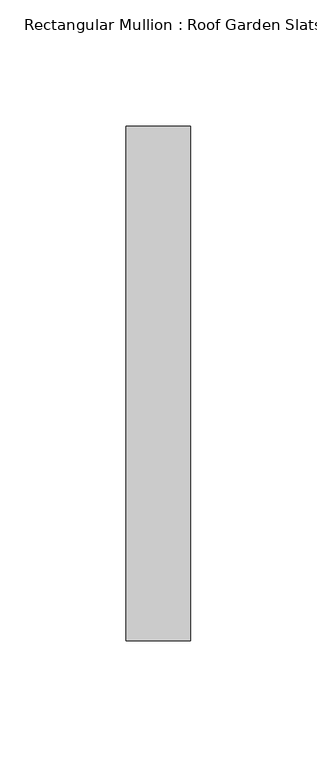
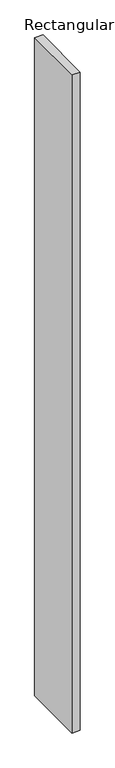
"""IFC4 building model written with IfcOpenShell, lengths in millimetres: member geometry, Rectangular Mullion : Roof Garden Slats."""

import ifcopenshell
import ifcopenshell.guid

model = None  # the IFC model being written
_history = None  # IfcOwnerHistory: only IFC2X3 demands one
_inside = {}  # id of a spatial element -> (the spatial element, [elements in it])
_under = {}  # id of a project, library or spatial element -> (it, [spatial elements below it])
_declared = {}  # id of a project -> (the project, [libraries it declares])
_typed = {}  # id of a type object -> (the type object, [elements of that type])
_made_of = {}  # id of a material, layer set ... -> (it, [elements and type objects made of it])


def new_model(schema):
    """Start an empty IFC model of exactly this schema.

    Asked for "IFC4X3", IfcOpenShell would pick the latest addendum, in which some entities
    have other attributes; the version numbers below select the first issue.
    IFC2X3 requires an IfcOwnerHistory on every rooted entity: one is made here for all.
    """
    global model, _history
    if schema == "IFC4X3":
        model = ifcopenshell.file(schema_version=(4, 3, 0, 0))
    else:
        model = ifcopenshell.file(schema=schema)
    _inside.clear()
    _under.clear()
    _declared.clear()
    _typed.clear()
    _made_of.clear()
    _history = None
    if model.schema == "IFC2X3":
        org = make("IfcOrganization", Name="unknown")
        user = make(
            "IfcPersonAndOrganization",
            ThePerson=make("IfcPerson", FamilyName="unknown"),
            TheOrganization=org,
        )
        app = make(
            "IfcApplication",
            ApplicationDeveloper=org,
            Version="unknown",
            ApplicationFullName="unknown",
            ApplicationIdentifier="unknown",
        )
        _history = make(
            "IfcOwnerHistory",
            OwningUser=user,
            OwningApplication=app,
            ChangeAction="ADDED",
            CreationDate=0,
        )
    return model


def make(cls, **values):
    """One entity of the class cls with the attributes given. An attribute that is None is left unset."""
    return model.create_entity(
        cls, **{name: value for name, value in values.items() if value is not None}
    )


def rooted(cls, **values):
    """An entity with a GlobalId (a new one), such as an element, a storey or a relation."""
    return make(cls, GlobalId=ifcopenshell.guid.new(), OwnerHistory=_history, **values)


def si_unit(unit_type, name, prefix=None):
    """IfcSIUnit, for example si_unit("LENGTHUNIT", "METRE", prefix="MILLI")."""
    return make("IfcSIUnit", UnitType=unit_type, Prefix=prefix, Name=name)


def assignment(units):
    """IfcUnitAssignment: the units of a project."""
    return None if units is None else make("IfcUnitAssignment", Units=units)


def point(xyz):
    """IfcCartesianPoint."""
    return None if xyz is None else make("IfcCartesianPoint", Coordinates=xyz)


def direction(xyz):
    """IfcDirection."""
    return None if xyz is None else make("IfcDirection", DirectionRatios=xyz)


def frame(location, z_axis=None, x_axis=None):
    """IfcAxis2Placement3D, a coordinate frame: its origin and axes. An axis left out is left unset."""
    return make(
        "IfcAxis2Placement3D",
        Location=point(location),
        Axis=direction(z_axis),
        RefDirection=direction(x_axis),
    )


def origin():
    """The frame at (0, 0, 0) with its axes left unset."""
    return frame((0.0, 0.0, 0.0))


def place(relative_to, where):
    """IfcLocalPlacement: puts the frame where relative to a parent placement (None: the world)."""
    return make(
        "IfcLocalPlacement", PlacementRelTo=relative_to, RelativePlacement=where
    )


def context(
    kind, dimensions, precision=None, world=None, true_north=None, identifier=None
):
    """IfcGeometricRepresentationContext, for example the 3D "Model" context."""
    return make(
        "IfcGeometricRepresentationContext",
        ContextIdentifier=identifier,
        ContextType=kind,
        CoordinateSpaceDimension=dimensions,
        Precision=precision,
        WorldCoordinateSystem=world,
        TrueNorth=true_north,
    )


def project(units=None, contexts=None):
    """IfcProject with its units and contexts."""
    return rooted(
        "IfcProject",
        Name="project",
        RepresentationContexts=contexts,
        UnitsInContext=assignment(units),
    )


def spatial(cls, under=None, at=None, **own):
    """A site, building, storey or space (cls), placed at a placement, below another one or the project."""
    s = rooted(cls, ObjectPlacement=at, **own)
    if under is not None:
        _under.setdefault(under.id(), (under, []))[1].append(s)
    return s


def polyline(points):
    """IfcPolyline through the points."""
    return make("IfcPolyline", Points=[point(p) for p in points])


def outline(outer, holes=None, kind="AREA"):
    """IfcArbitraryClosedProfileDef: a profile drawn as a closed curve; with holes, ...WithVoids."""
    if holes is None:
        return make("IfcArbitraryClosedProfileDef", ProfileType=kind, OuterCurve=outer)
    return make(
        "IfcArbitraryProfileDefWithVoids",
        ProfileType=kind,
        OuterCurve=outer,
        InnerCurves=holes,
    )


def extrude(swept, where, along, depth):
    """IfcExtrudedAreaSolid: the profile swept, set in the frame where, extruded along a direction by depth."""
    return make(
        "IfcExtrudedAreaSolid",
        SweptArea=swept,
        Position=where,
        ExtrudedDirection=direction(along),
        Depth=depth,
    )


def shape(context_of_items, identifier, shape_type, items):
    """IfcShapeRepresentation: the items that make up one representation, for example the "Body"."""
    return make(
        "IfcShapeRepresentation",
        ContextOfItems=context_of_items,
        RepresentationIdentifier=identifier,
        RepresentationType=shape_type,
        Items=items,
    )


def source(mapping_origin, context_of_items, identifier, shape_type, items):
    """IfcRepresentationMap: a shape defined once, which mapped items show again and again."""
    return make(
        "IfcRepresentationMap",
        MappingOrigin=mapping_origin,
        MappedRepresentation=shape(context_of_items, identifier, shape_type, items),
    )


def transform(
    local_origin,
    x_axis=None,
    y_axis=None,
    z_axis=None,
    scale=None,
    scale2=None,
    scale3=None,
    uniform=True,
):
    """IfcCartesianTransformationOperator3D, or its non-uniform kind. x_axis, y_axis, z_axis: its Axis1, 2, 3."""
    if uniform:
        return make(
            "IfcCartesianTransformationOperator3D",
            Axis1=direction(x_axis),
            Axis2=direction(y_axis),
            LocalOrigin=point(local_origin),
            Scale=scale,
            Axis3=direction(z_axis),
        )
    return make(
        "IfcCartesianTransformationOperator3DnonUniform",
        Axis1=direction(x_axis),
        Axis2=direction(y_axis),
        LocalOrigin=point(local_origin),
        Scale=scale,
        Axis3=direction(z_axis),
        Scale2=scale2,
        Scale3=scale3,
    )


def mapped(mapping_source, mapping_target):
    """IfcMappedItem: shows the shape of a source again, moved by a transform."""
    return make(
        "IfcMappedItem", MappingSource=mapping_source, MappingTarget=mapping_target
    )


def made_of(thing, what):
    """Note that an element or type object is made of a material, layer set ...; save() writes the relation."""
    if what is not None:
        _made_of.setdefault(what.id(), (what, []))[1].append(thing)
    return thing


def element(
    cls,
    number,
    at=None,
    inside=None,
    cuts=None,
    type_object=None,
    material=None,
    context=None,
    identifier="Body",
    shape_type=None,
    held_by="IfcProductDefinitionShape",
    body=None,
    shapes=None,
    **own,
):
    """One element of the class cls, such as IfcWall. Its Tag is "e" and its number.

    at: its placement. inside: the storey or other place that contains it. cuts: it is an
    opening in that element (IfcRelVoidsElement). A single representation is given by context,
    identifier, shape_type and body (its items); several are given by shapes. held_by: the class
    of the entity that holds the representations. save() writes the other relations.
    """
    e = rooted(cls, Tag="e%d" % number, ObjectPlacement=at, **own)
    if body is not None:
        shapes = [shape(context, identifier, shape_type, body)]
    if shapes is not None:
        e.Representation = make(held_by, Representations=shapes)
    if inside is not None:
        _inside.setdefault(inside.id(), (inside, []))[1].append(e)
    if cuts is not None:
        rooted(
            "IfcRelVoidsElement", RelatingBuildingElement=cuts, RelatedOpeningElement=e
        )
    if type_object is not None:
        _typed.setdefault(type_object.id(), (type_object, []))[1].append(e)
    return made_of(e, material)


def aggregate(whole, parts):
    """IfcRelAggregates: a whole, such as a stair, and the parts it consists of."""
    return rooted("IfcRelAggregates", RelatingObject=whole, RelatedObjects=parts)


def save(model, path):
    """Write the relations noted so far, then the file.

    IfcRelAggregates (storeys below a building ...), IfcRelContainedInSpatialStructure (elements
    in a storey), IfcRelDefinesByType, IfcRelAssociatesMaterial and IfcRelDeclares: one each for
    every whole, place, type object, material and project.
    """
    for whole, parts in _under.values():
        aggregate(whole, parts)
    for where, things in _inside.values():
        rooted(
            "IfcRelContainedInSpatialStructure",
            RelatedElements=things,
            RelatingStructure=where,
        )
    for kind, things in _typed.values():
        rooted("IfcRelDefinesByType", RelatedObjects=things, RelatingType=kind)
    for what, things in _made_of.values():
        rooted("IfcRelAssociatesMaterial", RelatedObjects=things, RelatingMaterial=what)
    for by, libraries in _declared.values():
        rooted("IfcRelDeclares", RelatingContext=by, RelatedDefinitions=libraries)
    model.write(path)


def rectangular_mullion_roof_garden_slats_45cd829f(model_context):
    return source(origin(), model_context, "Body", "SweptSolid", [
        extrude(outline(polyline([(0.0, 139.7), (0.0, -63.5), (-25.4, -63.5), (-25.4, 139.7), (0.0, 139.7)])), frame((0.0, 0.0, -2184.5317387), z_axis=(0.0, 0.0, 1.0), x_axis=(1.0, 0.0, 0.0)), (0.0, 0.0, 1.0), 2184.5317387),
    ])


if __name__ == "__main__":
    model = new_model("IFC4")
    model_context = context("Model", 3, world=origin())
    ifc_project = project(units=[si_unit("LENGTHUNIT", "METRE", prefix="MILLI")], contexts=[model_context])
    site = spatial("IfcSite", under=ifc_project)
    building = spatial("IfcBuilding", under=site)
    placement = place(None, origin())
    rectangular_mullion_roof_garden_slats_shape = rectangular_mullion_roof_garden_slats_45cd829f(model_context)
    element("IfcMember", 1, ObjectType="Rectangular Mullion : Roof Garden Slats", at=placement, inside=building, context=model_context, shape_type="MappedRepresentation", body=[
        mapped(rectangular_mullion_roof_garden_slats_shape, transform((0.0, 0.0, 0.0), x_axis=(1.0, 0.0, 0.0), y_axis=(0.0, 1.0, 0.0), z_axis=(0.0, 0.0, 1.0))),
    ])
    save(model, "model.ifc")
